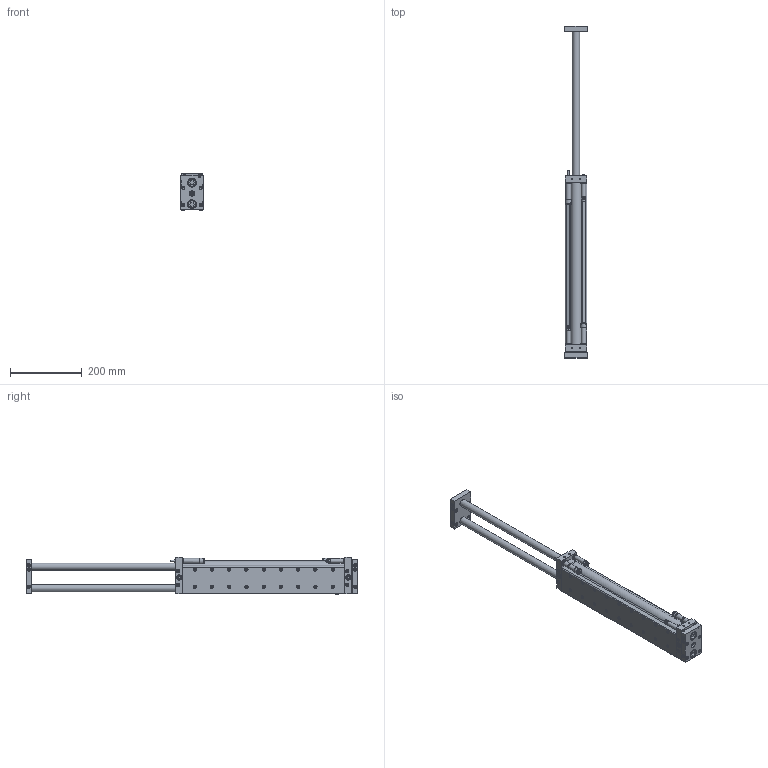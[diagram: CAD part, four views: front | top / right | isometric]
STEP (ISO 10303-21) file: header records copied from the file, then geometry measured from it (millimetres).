
FILE_DESCRIPTION((''),'2;1');
FILE_NAME('C:\Test\stp\1000032.stp','2008-03-18T17:44:52',('is'),(''),'Autodesk Inventor 10','Autodesk Inventor 10','');
FILE_SCHEMA(('AUTOMOTIVE_DESIGN { 1 0 10303 214 1 1 1 1 }'));
Length unit declared in the file: millimetre
Products named in the file (5): LEP 25-400 (1000032); 1000032; AS 12-60 (4000098); BSM 14 S (4000113)
Assembly tree (6 placements, depth 2):
  LEP 25-400 (1000032)
    1000032
    1000032
    AS 12-60 (4000098)  x2
    BSM 14 S (4000113)  x2
Bounding box: 64 x 924 x 103.9 mm (x, y, z)
Volume: 2571464.2 mm3; surface area: 681666.7 mm2
Topology: 20 solids, 55 shells, 1230 faces, 2709 edges, 1766 vertices
Faces by surface type: bspline 582, plane 341, cone 153, cylinder 131, torus 23
Full cylindrical faces by diameter (mm): 1.4 x2, 2 x2, 3.6 x2, 4 x8, 4.3 x2, 5.6 x4, 6 x10, 6.4 x1, 7.4 x2, 7.8 x2, 8 x7, 9 x2, 9.7 x4, 10 x12, 11 x2, 11.5 x2, 12 x6, 13.5 x4, 14 x4, 14.2 x2, 16 x2, 16.5 x4, 18.85 x4, 19.458 x2, 20 x6, 22 x2, 24 x6, 24.392 x2, 24.85 x1, 25 x1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
Entity records: 34928 total; most frequent: CARTESIAN_POINT 15726, DIRECTION 3461, ORIENTED_EDGE 3196, EDGE_LOOP 2089, EDGE_CURVE 1598, AXIS2_PLACEMENT_3D 1537, VERTEX_POINT 1343, FACE_OUTER_BOUND 1119
